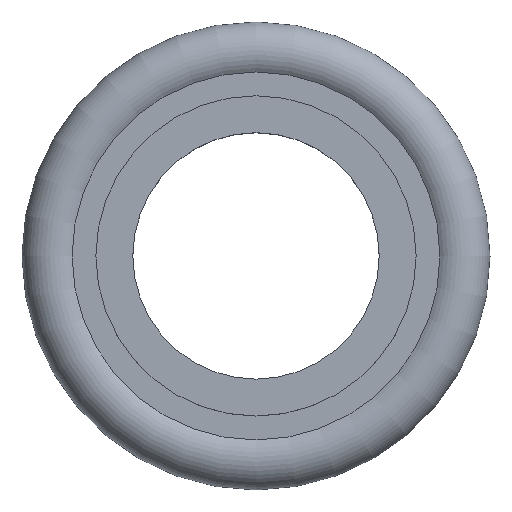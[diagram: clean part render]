
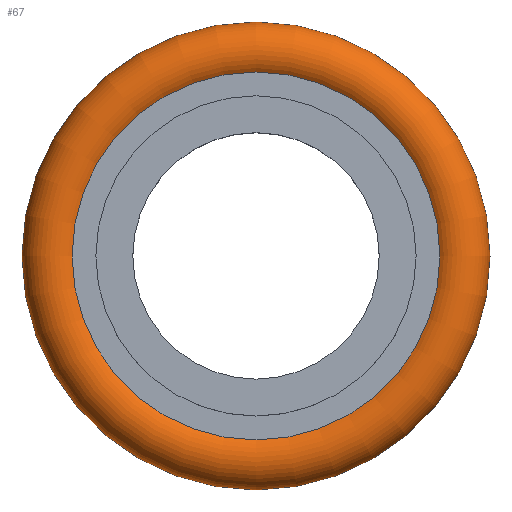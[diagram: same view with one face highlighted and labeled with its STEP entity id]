
A CAD part, top view. The second image highlights one B-rep face of the part: STEP entity #67.
In plain terms, the highlighted toroidal (fillet/blend) face has major radius 16.5 mm and minor radius 2.5 mm.
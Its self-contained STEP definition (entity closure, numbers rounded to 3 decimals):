
#67 = ADVANCED_FACE( '', ( #126, #127 ), #128, .T. );
#126 = FACE_OUTER_BOUND( '', #172, .T. );
#127 = FACE_OUTER_BOUND( '', #173, .T. );
#128 = TOROIDAL_SURFACE( '', #174, 16.5, 2.5 );
#172 = EDGE_LOOP( '', ( #218 ) );
#173 = EDGE_LOOP( '', ( #219 ) );
#174 = AXIS2_PLACEMENT_3D( '', #220, #221, #222 );
#218 = ORIENTED_EDGE( '', *, *, #243, .T. );
#219 = ORIENTED_EDGE( '', *, *, #231, .F. );
#220 = CARTESIAN_POINT( '', ( 0., 0., 0. ) );
#221 = DIRECTION( '', ( 0., 0., -1. ) );
#222 = DIRECTION( '', ( -1., 0., 0. ) );
#231 = EDGE_CURVE( '', #247, #247, #248, .T. );
#243 = EDGE_CURVE( '', #266, #266, #267, .T. );
#247 = VERTEX_POINT( '', #271 );
#248 = CIRCLE( '', #272, 14.936 );
#266 = VERTEX_POINT( '', #290 );
#267 = CIRCLE( '', #291, 14.936 );
#271 = CARTESIAN_POINT( '', ( -14.936, 0., -1.95 ) );
#272 = AXIS2_PLACEMENT_3D( '', #294, #295, #296 );
#290 = CARTESIAN_POINT( '', ( -14.936, 0., 1.95 ) );
#291 = AXIS2_PLACEMENT_3D( '', #315, #316, #317 );
#294 = CARTESIAN_POINT( '', ( 0., 0., -1.95 ) );
#295 = DIRECTION( '', ( 0., 0., -1. ) );
#296 = DIRECTION( '', ( -1., 0., 0. ) );
#315 = CARTESIAN_POINT( '', ( 0., 0., 1.95 ) );
#316 = DIRECTION( '', ( 0., 0., -1. ) );
#317 = DIRECTION( '', ( -1., 0., 0. ) );
